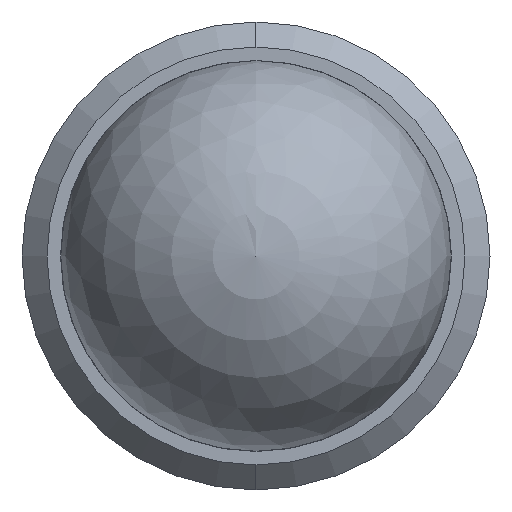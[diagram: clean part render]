
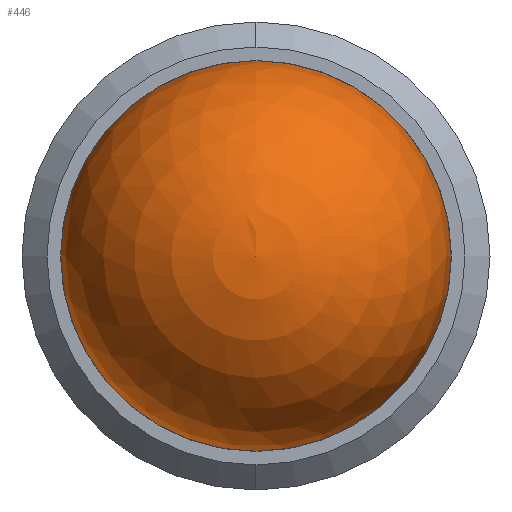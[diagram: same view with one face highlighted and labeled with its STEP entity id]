
A CAD part, left-side view. The second image highlights one B-rep face of the part: STEP entity #446.
In plain terms, the highlighted spherical face has radius 1.984 mm.
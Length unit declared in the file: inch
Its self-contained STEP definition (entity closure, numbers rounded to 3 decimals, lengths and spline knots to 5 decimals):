
#25 = CIRCLE ( 'NONE', #382, 0.07813 ) ;
#31 = CARTESIAN_POINT ( 'NONE',  ( 0., 0., 0. ) ) ;
#49 = DIRECTION ( 'NONE',  ( 1., 0., 0. ) ) ;
#87 = DIRECTION ( 'NONE',  ( 0., 0., 1. ) ) ;
#125 = DIRECTION ( 'NONE',  ( -1., 0., 0. ) ) ;
#140 = AXIS2_PLACEMENT_3D ( 'NONE', #492, #203, #265 ) ;
#157 = CARTESIAN_POINT ( 'NONE',  ( 0., 0.07813, 0. ) ) ;
#170 = FACE_OUTER_BOUND ( 'NONE', #610, .T. ) ;
#171 = SPHERICAL_SURFACE ( 'NONE', #140, 0.07813 ) ;
#203 = DIRECTION ( 'NONE',  ( -1., 0., 0. ) ) ;
#224 = EDGE_CURVE ( 'NONE', #514, #395, #25, .T. ) ;
#242 = CIRCLE ( 'NONE', #351, 0.07813 ) ;
#245 = EDGE_CURVE ( 'NONE', #514, #395, #242, .T. ) ;
#265 = DIRECTION ( 'NONE',  ( 0., 0., 1. ) ) ;
#351 = AXIS2_PLACEMENT_3D ( 'NONE', #31, #49, #447 ) ;
#382 = AXIS2_PLACEMENT_3D ( 'NONE', #425, #125, #87 ) ;
#395 = VERTEX_POINT ( 'NONE', #553 ) ;
#425 = CARTESIAN_POINT ( 'NONE',  ( 0., 0., 0. ) ) ;
#432 = ORIENTED_EDGE ( 'NONE', *, *, #224, .T. ) ;
#446 = ADVANCED_FACE ( 'NONE', ( #170 ), #171, .T. ) ;
#447 = DIRECTION ( 'NONE',  ( 0., 0., -1. ) ) ;
#492 = CARTESIAN_POINT ( 'NONE',  ( 0., 0., 0. ) ) ;
#514 = VERTEX_POINT ( 'NONE', #157 ) ;
#553 = CARTESIAN_POINT ( 'NONE',  ( 0., -0.07813, 0. ) ) ;
#567 = ORIENTED_EDGE ( 'NONE', *, *, #245, .F. ) ;
#610 = EDGE_LOOP ( 'NONE', ( #567, #432 ) ) ;
